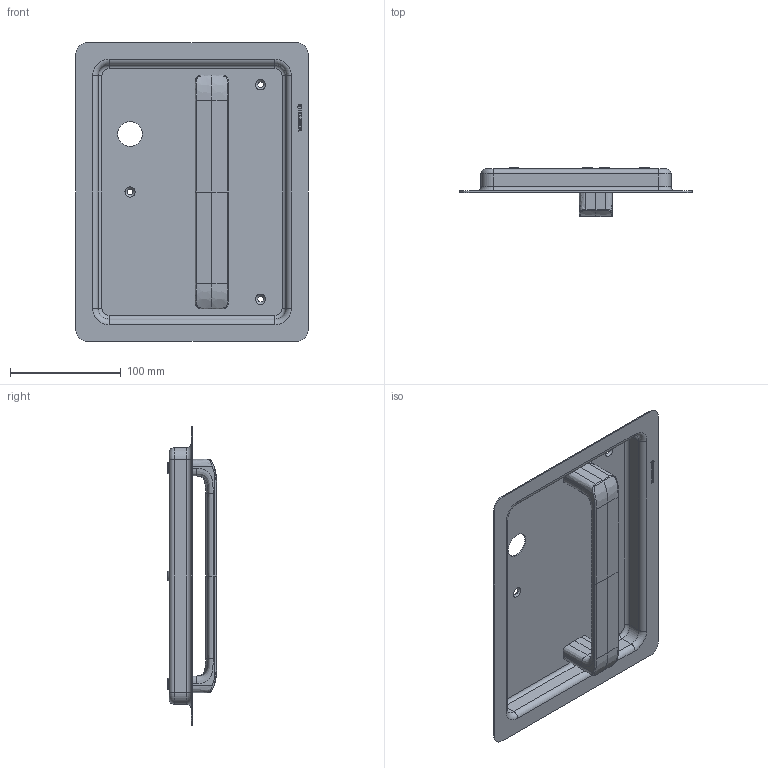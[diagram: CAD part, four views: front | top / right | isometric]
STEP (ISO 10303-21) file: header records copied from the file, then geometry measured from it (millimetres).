
FILE_DESCRIPTION(/* description */ (''),/* implementation_level */ '2;1');
FILE_NAME(/* name */ 'C:\ADSK_DMS_WS\Designs\Vorschläge\Loc Schalen\Heusser Muschel\Heusser-Muschel mit D6\Heusser-Muschel S6.20 mit D6\S6.20.D6.274L..stp',/* time_stamp */ '2025-04-10T16:40:50+02:00',/* author */ ('gm'),/* organization */ (''),/* preprocessor_version */ 'ST-DEVELOPER v17.2',/* originating_system */ 'Autodesk Inventor 2019',/* authorisation */ '');
FILE_SCHEMA (('AUTOMOTIVE_DESIGN { 1 0 10303 214 3 1 1 }'));
Length unit declared in the file: millimetre
Products named in the file (4): S6.20.D6.274L.; D6; M5x10 zu D6; Schale S6.20.R.D6ipt
Assembly tree (6 placements, depth 2):
  S6.20.D6.274L.
    D6
    M5x10 zu D6  x4
    Schale S6.20.R.D6ipt
Bounding box: 210 x 44.5 x 270 mm (x, y, z)
Volume: 151025.6 mm3; surface area: 161574.6 mm2
Topology: 6 solids, 6 shells, 386 faces, 989 edges, 634 vertices
Faces by surface type: plane 125, bspline 98, cylinder 93, cone 50, torus 20
Full cylindrical faces by diameter (mm): 4.134 x4, 5 x4, 5.5 x4, 9 x4, 22.3 x1
Entity records: 13496 total; most frequent: CARTESIAN_POINT 6462, ORIENTED_EDGE 1554, DIRECTION 1168, EDGE_CURVE 777, VERTEX_POINT 499, LINE 418, VECTOR 418, AXIS2_PLACEMENT_3D 375
